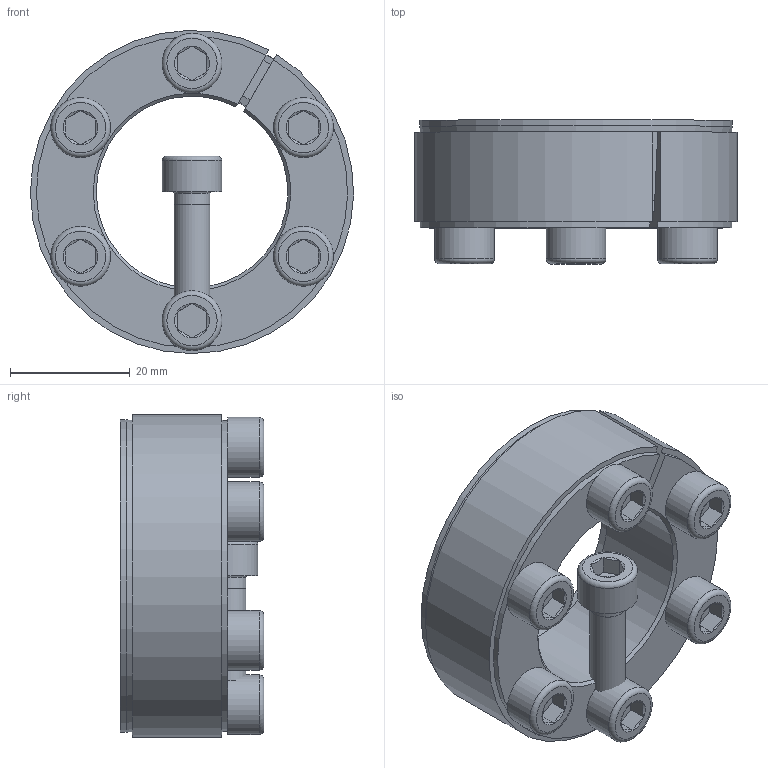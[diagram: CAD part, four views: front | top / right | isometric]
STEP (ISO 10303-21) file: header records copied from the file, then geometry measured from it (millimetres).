
FILE_DESCRIPTION( ( 'Unknown' ), '1' );
FILE_NAME( 'C:/Dokumente und Einstellungen/Sven/Desktop/homepage/cad - homepage/KBS52/KBS 52 - 32 x 54.stp', 'Unknown', ( 'Unknown' ), ( 'Unknown' ), 'XStep 1.0', 'Unknown', ' ' );
FILE_SCHEMA( ( 'automotive_design' ) );
Length unit declared in the file: millimetre
Products named in the file (3): Assem1; KBS 52 - 32 x 54; ISO EN DIN 4762 M6x18
Bounding box: 53.99 x 24 x 53.99 mm (x, y, z)
Volume: 52176.2 mm3; surface area: 24446.2 mm2
Topology: 9 solids, 9 shells, 227 faces, 453 edges, 270 vertices
Faces by surface type: plane 110, cone 55, cylinder 48, torus 14
Full cylindrical faces by diameter (mm): 5 x7, 6 x26, 10 x7, 52.175 x2
Entity records: 1645 total; most frequent: CARTESIAN_POINT 271, DIRECTION 247, ORIENTED_EDGE 188, AXIS2_PLACEMENT_3D 102, EDGE_CURVE 94, EDGE_LOOP 84, VERTEX_POINT 66, FACE_OUTER_BOUND 64
